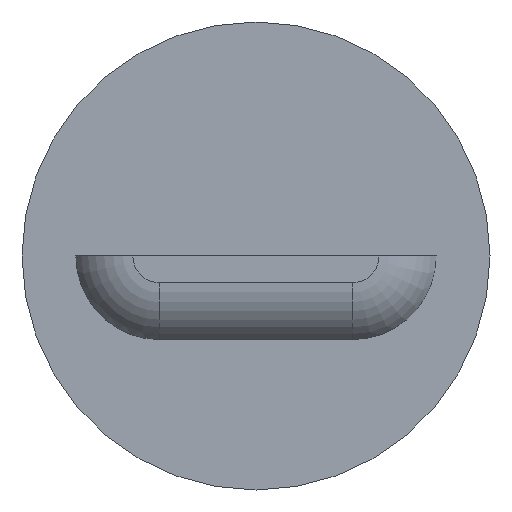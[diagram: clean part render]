
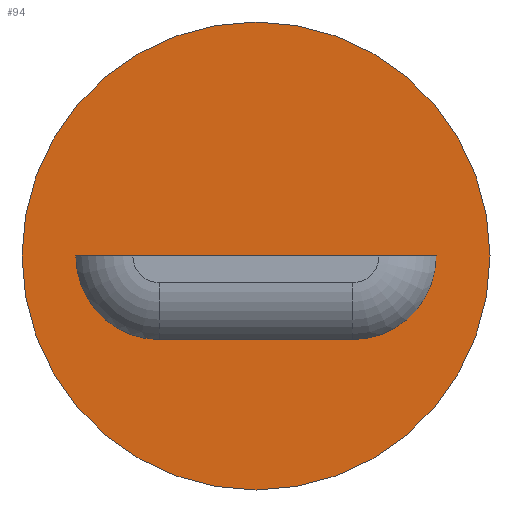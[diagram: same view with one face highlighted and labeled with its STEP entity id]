
A CAD part, front view. The second image highlights one B-rep face of the part: STEP entity #94.
In plain terms, the highlighted planar face has unit normal (0, -1, 0).
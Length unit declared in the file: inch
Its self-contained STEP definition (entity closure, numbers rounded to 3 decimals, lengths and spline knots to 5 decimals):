
#3 = CIRCLE ( 'NONE', #312, 1.75 ) ;
#7 = DIRECTION ( 'NONE',  ( 0., 0., 1. ) ) ;
#18 = CARTESIAN_POINT ( 'NONE',  ( 0., -0.1, -1.75 ) ) ;
#19 = ORIENTED_EDGE ( 'NONE', *, *, #183, .F. ) ;
#25 = EDGE_CURVE ( 'NONE', #128, #248, #3, .T. ) ;
#27 = DIRECTION ( 'NONE',  ( 0., 0., 1. ) ) ;
#40 = CARTESIAN_POINT ( 'NONE',  ( 0., -0.1, 0. ) ) ;
#62 = ORIENTED_EDGE ( 'NONE', *, *, #262, .F. ) ;
#66 = ORIENTED_EDGE ( 'NONE', *, *, #25, .F. ) ;
#72 = DIRECTION ( 'NONE',  ( 0., -1., 0. ) ) ;
#76 = CARTESIAN_POINT ( 'NONE',  ( 1.34652, -0.1, 0. ) ) ;
#82 = FACE_BOUND ( 'NONE', #136, .T. ) ;
#83 = EDGE_CURVE ( 'NONE', #251, #133, #175, .T. ) ;
#85 = EDGE_CURVE ( 'NONE', #266, #251, #140, .T. ) ;
#87 = CIRCLE ( 'NONE', #239, 0.625 ) ;
#94 = ADVANCED_FACE ( 'NONE', ( #252, #82 ), #123, .F. ) ;
#98 = VERTEX_POINT ( 'NONE', #76 ) ;
#105 = CARTESIAN_POINT ( 'NONE',  ( 0., -0.1, 0. ) ) ;
#108 = VECTOR ( 'NONE', #192, 39.37008 ) ;
#113 = DIRECTION ( 'NONE',  ( 0., 0., -1. ) ) ;
#114 = AXIS2_PLACEMENT_3D ( 'NONE', #105, #201, #195 ) ;
#123 = PLANE ( 'NONE',  #114 ) ;
#128 = VERTEX_POINT ( 'NONE', #18 ) ;
#130 = VECTOR ( 'NONE', #328, 39.37008 ) ;
#133 = VERTEX_POINT ( 'NONE', #216 ) ;
#136 = EDGE_LOOP ( 'NONE', ( #242, #234, #193, #62 ) ) ;
#140 = CIRCLE ( 'NONE', #261, 0.625 ) ;
#157 = EDGE_CURVE ( 'NONE', #133, #98, #87, .T. ) ;
#175 = LINE ( 'NONE', #199, #130 ) ;
#182 = AXIS2_PLACEMENT_3D ( 'NONE', #40, #264, #7 ) ;
#183 = EDGE_CURVE ( 'NONE', #248, #128, #287, .T. ) ;
#190 = CARTESIAN_POINT ( 'NONE',  ( -0.72196, -0.1, -0.625 ) ) ;
#192 = DIRECTION ( 'NONE',  ( -1., 0., 0. ) ) ;
#193 = ORIENTED_EDGE ( 'NONE', *, *, #85, .F. ) ;
#195 = DIRECTION ( 'NONE',  ( 0., 0., 1. ) ) ;
#199 = CARTESIAN_POINT ( 'NONE',  ( 0.72152, -0.1, -0.625 ) ) ;
#201 = DIRECTION ( 'NONE',  ( 0., 1., 0. ) ) ;
#210 = LINE ( 'NONE', #211, #108 ) ;
#211 = CARTESIAN_POINT ( 'NONE',  ( 1.34652, -0.1, 0. ) ) ;
#213 = CARTESIAN_POINT ( 'NONE',  ( -1.34696, -0.1, 0. ) ) ;
#216 = CARTESIAN_POINT ( 'NONE',  ( 0.72152, -0.1, -0.625 ) ) ;
#219 = CARTESIAN_POINT ( 'NONE',  ( 0., -0.1, 0. ) ) ;
#234 = ORIENTED_EDGE ( 'NONE', *, *, #83, .F. ) ;
#239 = AXIS2_PLACEMENT_3D ( 'NONE', #315, #267, #113 ) ;
#242 = ORIENTED_EDGE ( 'NONE', *, *, #157, .F. ) ;
#248 = VERTEX_POINT ( 'NONE', #272 ) ;
#251 = VERTEX_POINT ( 'NONE', #190 ) ;
#252 = FACE_OUTER_BOUND ( 'NONE', #298, .T. ) ;
#261 = AXIS2_PLACEMENT_3D ( 'NONE', #320, #72, #27 ) ;
#262 = EDGE_CURVE ( 'NONE', #98, #266, #210, .T. ) ;
#264 = DIRECTION ( 'NONE',  ( 0., 1., 0. ) ) ;
#266 = VERTEX_POINT ( 'NONE', #213 ) ;
#267 = DIRECTION ( 'NONE',  ( 0., -1., 0. ) ) ;
#272 = CARTESIAN_POINT ( 'NONE',  ( 0., -0.1, 1.75 ) ) ;
#279 = DIRECTION ( 'NONE',  ( 0., 1., 0. ) ) ;
#281 = DIRECTION ( 'NONE',  ( 0., 0., 1. ) ) ;
#287 = CIRCLE ( 'NONE', #182, 1.75 ) ;
#298 = EDGE_LOOP ( 'NONE', ( #19, #66 ) ) ;
#312 = AXIS2_PLACEMENT_3D ( 'NONE', #219, #279, #281 ) ;
#315 = CARTESIAN_POINT ( 'NONE',  ( 0.72152, -0.1, 0. ) ) ;
#320 = CARTESIAN_POINT ( 'NONE',  ( -0.72196, -0.1, 0. ) ) ;
#328 = DIRECTION ( 'NONE',  ( 1., 0., 0. ) ) ;
